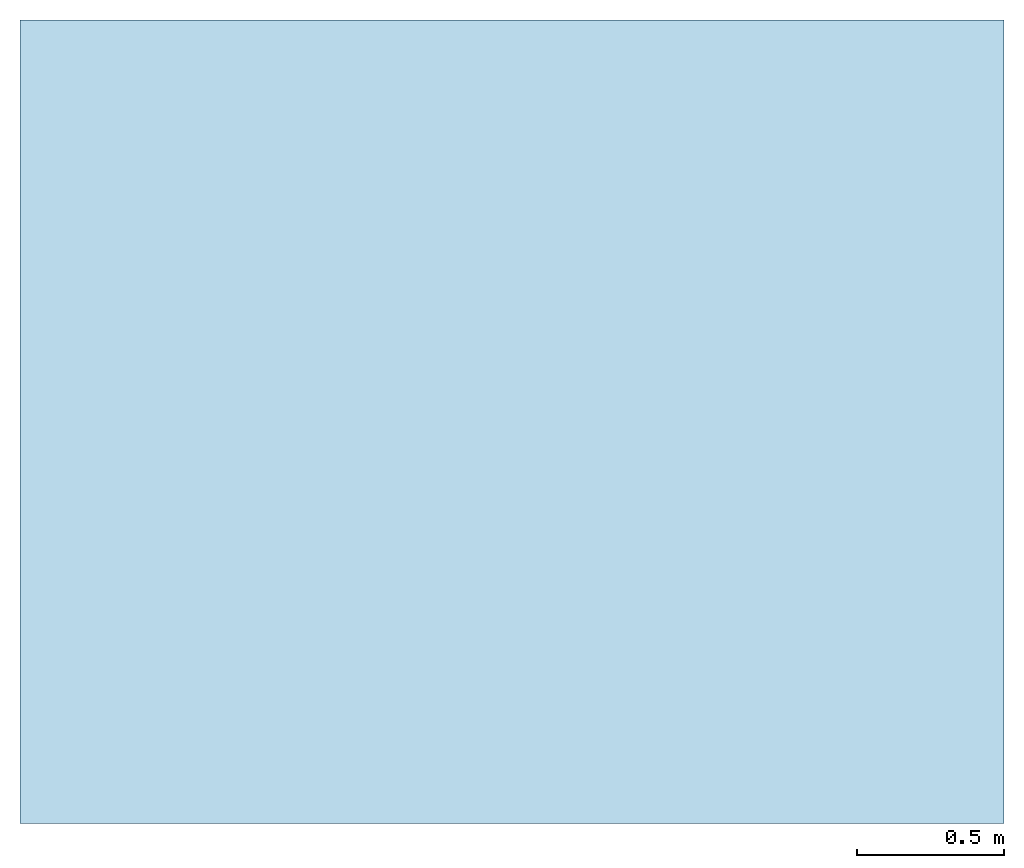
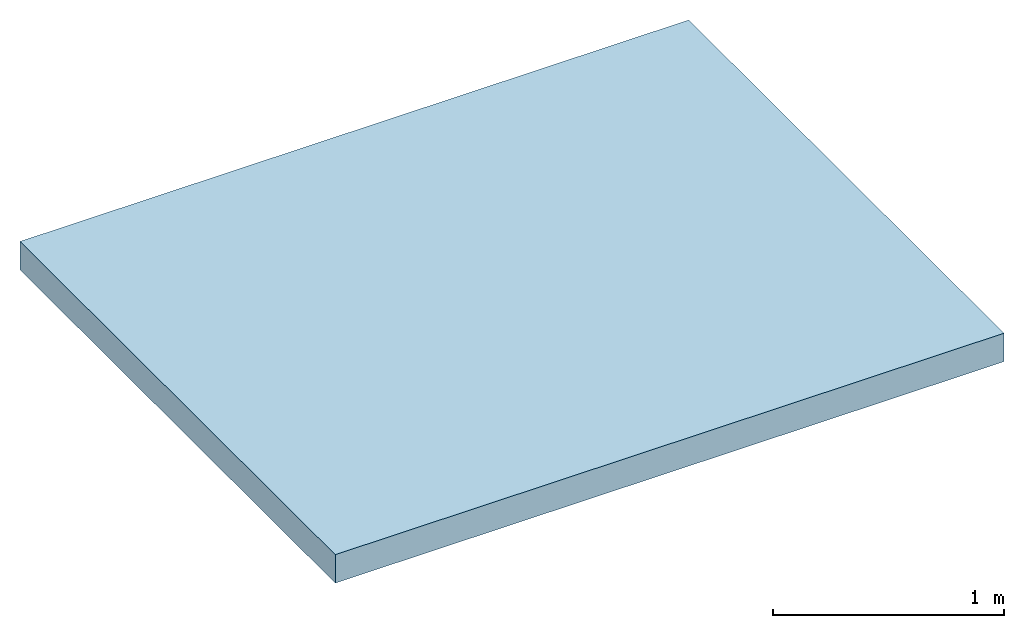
# One storey: 1 slab.
"""IFC2X3 building model written with IfcOpenShell, lengths in metres."""

from ifc_helpers import new_model, entity, si_unit, converted_unit, derived_unit, direction, frame, frame_2d, origin, place, context, subcontext, project, spatial, rectangle, extrude, material, layer, layer_set, layer_usage, type_object, element, save


model = new_model("IFC2X3")

# Units and contexts
model_context = context("Model", 3, precision=1e-05, world=origin(), true_north=direction((6.12303176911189e-17, 1.0)))
body_context = subcontext(model_context, "Body", "Model", "MODEL_VIEW")
ifc_project = project(units=[si_unit("LENGTHUNIT", "METRE"), si_unit("AREAUNIT", "SQUARE_METRE"), si_unit("VOLUMEUNIT", "CUBIC_METRE"), converted_unit("PLANEANGLEUNIT", "DEGREE", entity("IfcRatioMeasure", 0.0174532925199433), si_unit("PLANEANGLEUNIT", "RADIAN"), dimensions=[0, 0, 0, 0, 0, 0, 0]), si_unit("MASSUNIT", "GRAM", prefix="KILO"), derived_unit("MASSDENSITYUNIT", [(si_unit("MASSUNIT", "GRAM", prefix="KILO"), 1), (si_unit("LENGTHUNIT", "METRE"), -3)]), derived_unit("MOMENTOFINERTIAUNIT", [(si_unit("LENGTHUNIT", "METRE"), 4)]), si_unit("TIMEUNIT", "SECOND"), si_unit("FREQUENCYUNIT", "HERTZ"), si_unit("THERMODYNAMICTEMPERATUREUNIT", "DEGREE_CELSIUS"), derived_unit("THERMALTRANSMITTANCEUNIT", [(si_unit("MASSUNIT", "GRAM", prefix="KILO"), 1), (si_unit("THERMODYNAMICTEMPERATUREUNIT", "KELVIN"), -1), (si_unit("TIMEUNIT", "SECOND"), -3)]), derived_unit("VOLUMETRICFLOWRATEUNIT", [(si_unit("LENGTHUNIT", "METRE"), 3), (si_unit("TIMEUNIT", "SECOND"), -1)]), si_unit("ELECTRICCURRENTUNIT", "AMPERE"), si_unit("ELECTRICVOLTAGEUNIT", "VOLT"), si_unit("POWERUNIT", "WATT"), si_unit("FORCEUNIT", "NEWTON", prefix="KILO"), si_unit("ILLUMINANCEUNIT", "LUX"), si_unit("LUMINOUSFLUXUNIT", "LUMEN"), si_unit("LUMINOUSINTENSITYUNIT", "CANDELA"), derived_unit("USERDEFINED", [(si_unit("MASSUNIT", "GRAM", prefix="KILO"), -1), (si_unit("LENGTHUNIT", "METRE"), -2), (si_unit("TIMEUNIT", "SECOND"), 3), (si_unit("LUMINOUSFLUXUNIT", "LUMEN"), 1)]), derived_unit("LINEARVELOCITYUNIT", [(si_unit("LENGTHUNIT", "METRE"), 1), (si_unit("TIMEUNIT", "SECOND"), -1)]), si_unit("PRESSUREUNIT", "PASCAL"), derived_unit("USERDEFINED", [(si_unit("LENGTHUNIT", "METRE"), -2), (si_unit("MASSUNIT", "GRAM", prefix="KILO"), 1), (si_unit("TIMEUNIT", "SECOND"), -2)]), derived_unit("LINEARFORCEUNIT", [(si_unit("MASSUNIT", "GRAM", prefix="KILO"), 1), (si_unit("LENGTHUNIT", "METRE"), 1), (si_unit("TIMEUNIT", "SECOND"), -2), (si_unit("LENGTHUNIT", "METRE"), -1)]), derived_unit("PLANARFORCEUNIT", [(si_unit("MASSUNIT", "GRAM", prefix="KILO"), 1), (si_unit("LENGTHUNIT", "METRE"), 1), (si_unit("TIMEUNIT", "SECOND"), -2), (si_unit("LENGTHUNIT", "METRE"), -2)])], contexts=[model_context])

# Site, building, storey
site_placement = place(None, origin())
site = spatial("IfcSite", under=ifc_project, at=site_placement, Name="Default", CompositionType="ELEMENT")
building_placement = place(site_placement, origin())
building = spatial("IfcBuilding", under=site, at=building_placement, CompositionType="ELEMENT")
storey_placement = place(building_placement, frame((0.0, 0.0, 4.31330827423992)))
storey = spatial("IfcBuildingStorey", under=building, at=storey_placement, Name="Niveau 1 - 02", CompositionType="ELEMENT", Elevation=4.31330827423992)

# Slab
ifc_material = material(Name="Béton, coulé sur place")
ifc_layer = layer(ifc_material, 0.15)
ifc_layer_set = layer_set([ifc_layer], Name="Sol:Béton sur place 150mm")
ifc_layer_usage = layer_usage(ifc_layer_set, "AXIS3", "POSITIVE", 0.0)
slab_type = type_object("IfcSlabType", Name="Sol:Béton sur place 150mm", PredefinedType="FLOOR", material=ifc_layer_set)
slab_placement = place(storey_placement, origin())
element("IfcSlab", 1, at=slab_placement, inside=storey, type_object=slab_type, material=ifc_layer_usage, Name="Sol:Béton sur place 150mm", ObjectType="Sol:Béton sur place 150mm", PredefinedType="FLOOR", context=body_context, shape_type="SweptSolid", body=[
    extrude(rectangle(XDim=2.72500000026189, YDim=3.33691795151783, at=frame_2d((-2.22044604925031e-15, 5.55111512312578e-16), x_axis=(1.0, 0.0))), frame((-7.54553019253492, -3.52161513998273, 0.75), z_axis=(0.0, 0.0, -1.0), x_axis=(0.0, 1.0, 0.0)), (0.0, 0.0, 1.0), 0.149999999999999),
])

save(model, "model.ifc")
